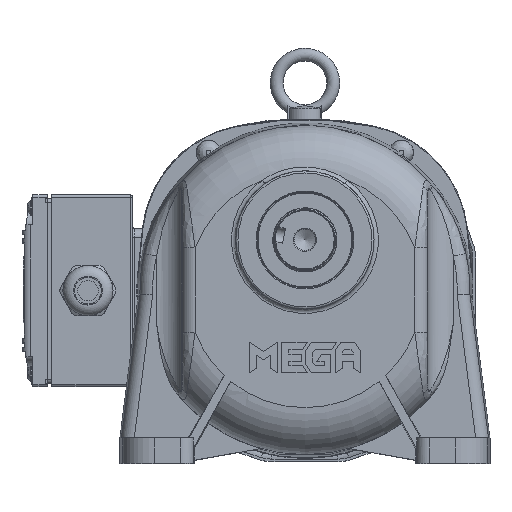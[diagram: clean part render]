
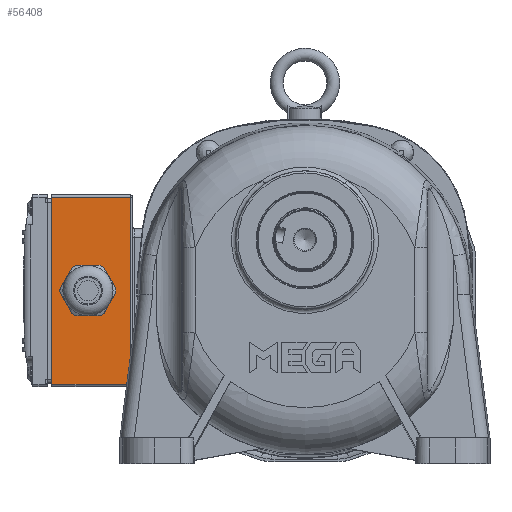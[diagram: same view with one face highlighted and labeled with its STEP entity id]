
A CAD part, top view. The second image highlights one B-rep face of the part: STEP entity #56408.
In plain terms, the highlighted planar face has unit normal (0, 0, 1).
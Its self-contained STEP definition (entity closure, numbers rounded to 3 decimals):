
#3179=LINE('',#77184,#6062);
#3208=LINE('',#77304,#6091);
#3209=LINE('',#77306,#6092);
#3210=LINE('',#77308,#6093);
#3211=LINE('',#77310,#6094);
#3212=LINE('',#77312,#6095);
#5501=LINE('',#122561,#8384);
#5636=LINE('',#122929,#8519);
#5637=LINE('',#122932,#8520);
#5638=LINE('',#122933,#8521);
#6062=VECTOR('',#62862,10.);
#6091=VECTOR('',#62973,10.);
#6092=VECTOR('',#62976,10.);
#6093=VECTOR('',#62979,10.);
#6094=VECTOR('',#62982,10.);
#6095=VECTOR('',#62985,10.);
#8384=VECTOR('',#74300,10.);
#8519=VECTOR('',#74683,10.);
#8520=VECTOR('',#74686,10.);
#8521=VECTOR('',#74687,10.);
#10261=FACE_BOUND('',#16348,.T.);
#12954=FACE_OUTER_BOUND('',#16347,.T.);
#16347=EDGE_LOOP('',(#46630,#46631,#46632,#46633));
#16348=EDGE_LOOP('',(#46634,#46635,#46636,#46637,#46638,#46639,#46640,#46641,
#46642,#46643,#46644,#46645));
#16986=CIRCLE('',#57069,13.);
#16988=CIRCLE('',#57072,13.);
#16990=CIRCLE('',#57075,13.);
#16992=CIRCLE('',#57078,13.);
#16994=CIRCLE('',#57081,13.);
#16996=CIRCLE('',#57084,13.);
#20094=VERTEX_POINT('',#77130);
#20096=VERTEX_POINT('',#77134);
#20098=VERTEX_POINT('',#77139);
#20100=VERTEX_POINT('',#77143);
#20102=VERTEX_POINT('',#77148);
#20104=VERTEX_POINT('',#77152);
#20106=VERTEX_POINT('',#77157);
#20108=VERTEX_POINT('',#77161);
#20110=VERTEX_POINT('',#77166);
#20112=VERTEX_POINT('',#77170);
#20114=VERTEX_POINT('',#77175);
#20116=VERTEX_POINT('',#77179);
#24274=VERTEX_POINT('',#122547);
#24280=VERTEX_POINT('',#122559);
#24389=VERTEX_POINT('',#122927);
#24390=VERTEX_POINT('',#122931);
#25130=EDGE_CURVE('',#20094,#20096,#16986,.T.);
#25134=EDGE_CURVE('',#20098,#20100,#16988,.T.);
#25138=EDGE_CURVE('',#20102,#20104,#16990,.T.);
#25142=EDGE_CURVE('',#20106,#20108,#16992,.T.);
#25146=EDGE_CURVE('',#20110,#20112,#16994,.T.);
#25150=EDGE_CURVE('',#20114,#20116,#16996,.T.);
#25152=EDGE_CURVE('',#20116,#20094,#3179,.T.);
#25208=EDGE_CURVE('',#20096,#20098,#3208,.T.);
#25209=EDGE_CURVE('',#20112,#20114,#3209,.T.);
#25210=EDGE_CURVE('',#20108,#20110,#3210,.T.);
#25211=EDGE_CURVE('',#20104,#20106,#3211,.T.);
#25212=EDGE_CURVE('',#20100,#20102,#3212,.T.);
#31837=EDGE_CURVE('',#24274,#24280,#5501,.T.);
#32022=EDGE_CURVE('',#24274,#24389,#5636,.T.);
#32023=EDGE_CURVE('',#24389,#24390,#5637,.T.);
#32024=EDGE_CURVE('',#24390,#24280,#5638,.T.);
#46630=ORIENTED_EDGE('',*,*,#32023,.F.);
#46631=ORIENTED_EDGE('',*,*,#32022,.F.);
#46632=ORIENTED_EDGE('',*,*,#31837,.T.);
#46633=ORIENTED_EDGE('',*,*,#32024,.F.);
#46634=ORIENTED_EDGE('',*,*,#25150,.T.);
#46635=ORIENTED_EDGE('',*,*,#25152,.T.);
#46636=ORIENTED_EDGE('',*,*,#25130,.T.);
#46637=ORIENTED_EDGE('',*,*,#25208,.T.);
#46638=ORIENTED_EDGE('',*,*,#25134,.T.);
#46639=ORIENTED_EDGE('',*,*,#25212,.T.);
#46640=ORIENTED_EDGE('',*,*,#25138,.T.);
#46641=ORIENTED_EDGE('',*,*,#25211,.T.);
#46642=ORIENTED_EDGE('',*,*,#25142,.T.);
#46643=ORIENTED_EDGE('',*,*,#25210,.T.);
#46644=ORIENTED_EDGE('',*,*,#25146,.T.);
#46645=ORIENTED_EDGE('',*,*,#25209,.T.);
#50309=PLANE('',#61768);
#56408=ADVANCED_FACE('',(#12954,#10261),#50309,.T.);
#57069=AXIS2_PLACEMENT_3D('',#77136,#62817,#62818);
#57072=AXIS2_PLACEMENT_3D('',#77145,#62825,#62826);
#57075=AXIS2_PLACEMENT_3D('',#77154,#62833,#62834);
#57078=AXIS2_PLACEMENT_3D('',#77163,#62841,#62842);
#57081=AXIS2_PLACEMENT_3D('',#77172,#62849,#62850);
#57084=AXIS2_PLACEMENT_3D('',#77181,#62857,#62858);
#61768=AXIS2_PLACEMENT_3D('',#122930,#74684,#74685);
#62817=DIRECTION('center_axis',(0.,0.,
-1.));
#62818=DIRECTION('ref_axis',(1.,0.,0.));
#62825=DIRECTION('center_axis',(0.,0.,
-1.));
#62826=DIRECTION('ref_axis',(1.,0.,0.));
#62833=DIRECTION('center_axis',(0.,0.,
-1.));
#62834=DIRECTION('ref_axis',(1.,0.,0.));
#62841=DIRECTION('center_axis',(0.,0.,
-1.));
#62842=DIRECTION('ref_axis',(1.,0.,0.));
#62849=DIRECTION('center_axis',(0.,0.,
-1.));
#62850=DIRECTION('ref_axis',(1.,0.,0.));
#62857=DIRECTION('center_axis',(0.,0.,
-1.));
#62858=DIRECTION('ref_axis',(1.,0.,0.));
#62862=DIRECTION('',(-1.,0.,0.));
#62973=DIRECTION('',(-0.5,0.866,0.));
#62976=DIRECTION('',(-0.5,-0.866,0.));
#62979=DIRECTION('',(0.5,-0.866,0.));
#62982=DIRECTION('',(1.,0.,0.));
#62985=DIRECTION('',(0.5,0.866,0.));
#74300=DIRECTION('',(0.,-1.,0.));
#74683=DIRECTION('',(1.,0.,0.));
#74684=DIRECTION('center_axis',(0.,0.,
1.));
#74685=DIRECTION('ref_axis',(1.,0.,0.));
#74686=DIRECTION('',(0.,-1.,0.));
#74687=DIRECTION('',(-1.,0.,0.));
#77130=CARTESIAN_POINT('',(-105.835,-27.59,-168.5));
#77134=CARTESIAN_POINT('',(-108.078,-26.295,-168.5));
#77136=CARTESIAN_POINT('Origin',(-100.489,-15.74,-168.5));
#77139=CARTESIAN_POINT('',(-113.424,-17.036,-168.5));
#77143=CARTESIAN_POINT('',(-113.424,-14.445,-168.5));
#77145=CARTESIAN_POINT('Origin',(-100.489,-15.74,-168.5));
#77148=CARTESIAN_POINT('',(-108.078,-5.186,-168.5));
#77152=CARTESIAN_POINT('',(-105.835,-3.89,-168.5));
#77154=CARTESIAN_POINT('Origin',(-100.489,-15.74,-168.5));
#77157=CARTESIAN_POINT('',(-95.143,-3.89,-168.5));
#77161=CARTESIAN_POINT('',(-92.899,-5.186,-168.5));
#77163=CARTESIAN_POINT('Origin',(-100.489,-15.74,-168.5));
#77166=CARTESIAN_POINT('',(-87.553,-14.445,-168.5));
#77170=CARTESIAN_POINT('',(-87.553,-17.036,-168.5));
#77172=CARTESIAN_POINT('Origin',(-100.489,-15.74,-168.5));
#77175=CARTESIAN_POINT('',(-92.899,-26.295,-168.5));
#77179=CARTESIAN_POINT('',(-95.143,-27.59,-168.5));
#77181=CARTESIAN_POINT('Origin',(-100.489,-15.74,-168.5));
#77184=CARTESIAN_POINT('',(-93.41,-27.59,-168.5));
#77304=CARTESIAN_POINT('',(-119.579,-6.374,-168.5));
#77306=CARTESIAN_POINT('',(-79.569,-3.206,-168.5));
#77308=CARTESIAN_POINT('',(-95.634,-0.449,-168.5));
#77310=CARTESIAN_POINT('',(-86.568,-3.89,-168.5));
#77312=CARTESIAN_POINT('',(-96.673,14.569,-168.5));
#122547=CARTESIAN_POINT('',(-117.489,28.26,-168.5));
#122559=CARTESIAN_POINT('',(-117.489,-59.74,-168.5));
#122561=CARTESIAN_POINT('',(-117.489,-60.74,-168.5));
#122927=CARTESIAN_POINT('',(-80.489,28.26,-168.5));
#122929=CARTESIAN_POINT('',(-79.489,28.26,-168.5));
#122930=CARTESIAN_POINT('Origin',(-79.489,29.26,-168.5));
#122931=CARTESIAN_POINT('',(-80.489,-59.74,-168.5));
#122932=CARTESIAN_POINT('',(-80.489,6.76,-168.5));
#122933=CARTESIAN_POINT('',(-79.489,-59.74,-168.5));
